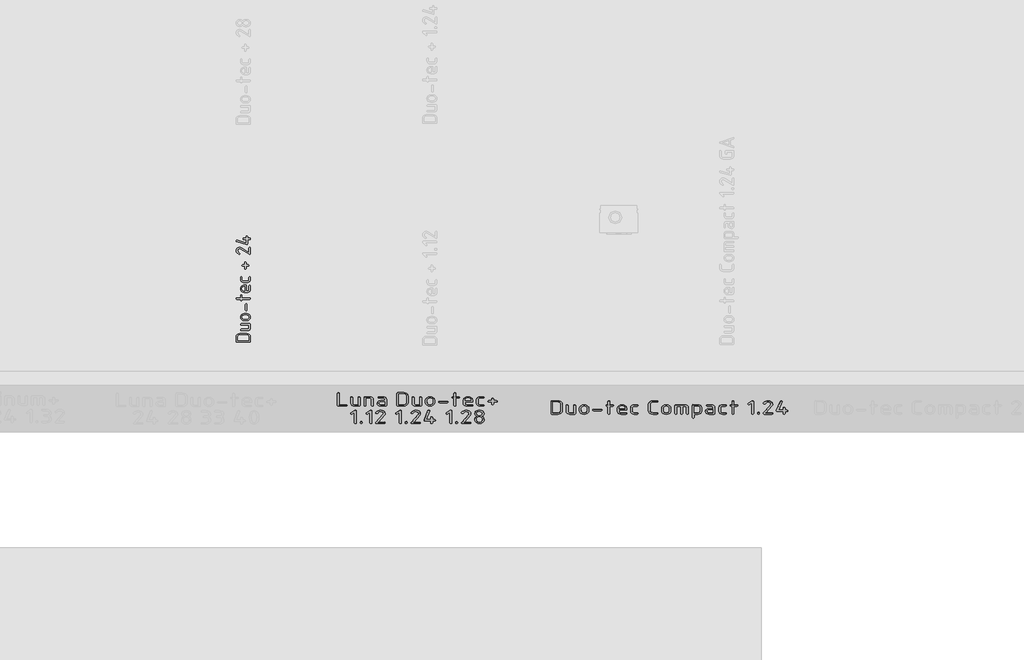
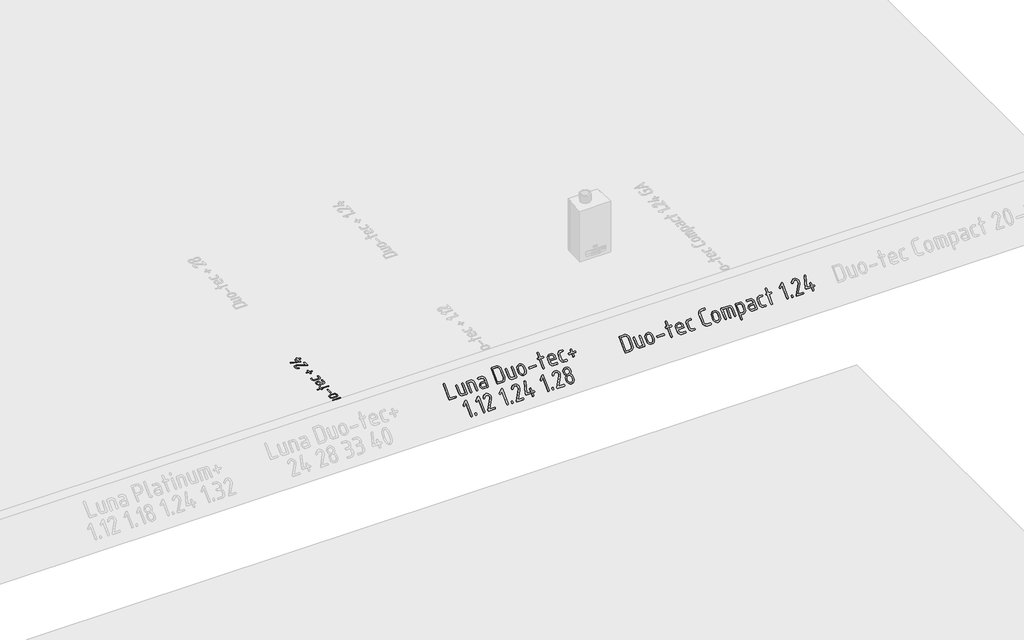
# One storey, part 24 of 37: 3 proxies.
"""IFC4 building model written with IfcOpenShell, lengths in millimetres."""

from ifc_helpers import new_model, si_unit, frame, origin, place, context, project, spatial, polyline, outline, extrude, element, save

model = new_model("IFC4")

# Units and contexts
model_context = context("Model", 3, world=origin())
ifc_project = project(units=[si_unit("LENGTHUNIT", "METRE", prefix="MILLI")], contexts=[model_context])

# Site, building, storey
site = spatial("IfcSite", under=ifc_project)
building = spatial("IfcBuilding", under=site)
storey = spatial("IfcBuildingStorey", under=building, Name="01_Стартовый вид_Площадка", Elevation=0.0)

# Proxies
placement = place(None, origin())
element("IfcBuildingElementProxy", 1, Name="200мм", ObjectType="200мм", at=placement, inside=storey, context=model_context, shape_type="SweptSolid", body=[
    extrude(outline(polyline([(181.0073918, 0.0), (188.5582446, -2.4903166), (191.0751956, -9.9612661), (191.0751956, -69.6223252), (187.4395998, -88.9189491), (176.5328124, -104.9395415), (160.3257792, -115.726474), (140.7894457, -119.3221182), (40.2179461, -119.3221182), (20.8813707, -115.6865224), (4.6343859, -104.7797351), (-6.3922563, -88.719191), (-10.0678037, -69.6223252), (-10.0678037, -9.9612661), (-7.5508528, -2.4903166), (0.0, 0.0), (181.0073918, 0.0)]), holes=[polyline([(170.6199753, -20.4552203), (10.3874166, -20.4552203), (10.3874166, -69.4625188), (12.5847547, -80.7621636), (19.176769, -90.2639863), (28.8850083, -96.7161701), (40.4310213, -98.866898), (140.5763706, -98.866898), (152.1223835, -96.7161701), (161.8306228, -90.2639863), (168.4226372, -80.7621636), (170.6199753, -69.4625188), (170.6199753, -20.4552203)])]), frame((21134.2931871, -5082.7027413, 84.7245958), z_axis=(0.0, -0.7071067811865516, 0.7071067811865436), x_axis=(0.0, 0.7071067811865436, 0.7071067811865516)), (0.0, 0.0, 1.0), 10.0),
    extrude(outline(polyline([(7.8963813, 0.0), (121.2937942, -38.8098098), (127.5601635, -43.5725011), (127.5101016, -51.4095223), (111.5032112, -98.1796553), (103.8057301, -111.7461768), (91.4765408, -120.9968587), (76.511249, -124.9537749), (60.9054607, -122.6389988), (-24.1173995, -93.5402659), (-30.3578956, -88.7019763), (-30.230214, -80.6381603), (-25.39024, -74.1871075), (-17.4938587, -74.1871075), (67.1762096, -103.1650988), (82.2515298, -102.3002329), (92.2362967, -91.3041202), (104.7416798, -54.7649538), (1.2728404, -19.3531585), (-4.9676556, -14.5148688), (-4.8399741, -6.4510528), (0.0, 0.0), (7.8963813, 0.0)])), frame((21390.8357413, -4992.7451694, 174.6821677), z_axis=(0.0, -0.7071067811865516, 0.7071067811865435), x_axis=(0.32380687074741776, -0.6690101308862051, -0.669010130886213)), (0.0, 0.0, 1.0), 10.0),
    extrude(outline(polyline([(19.5277269, 0.0), (58.788553, -7.3971647), (76.977393, -14.5033742), (90.8173496, -28.1486773), (98.6171829, -45.8732873), (98.6856532, -65.2174179), (91.5847543, -83.4140342), (77.9948347, -97.0679287), (60.19967, -104.6308689), (40.4830361, -104.5546223), (1.2222101, -97.1574576), (-16.96663, -90.0512481), (-30.8065866, -76.405945), (-38.6064199, -58.6813349), (-38.6748903, -39.3372044), (-31.5717163, -21.3442893), (-17.856617, -7.6733255), (0.0, 0.0), (19.5277269, 0.0)]), holes=[polyline([(5.5853838, -77.1644064), (44.8985576, -84.5714339), (56.5989581, -84.6144501), (67.3060997, -80.1473937), (75.5187712, -72.1612621), (79.7357612, -61.647053), (79.6340604, -50.3191559), (74.8906592, -39.8919599), (66.5432132, -31.8348129), (55.6293778, -27.6170623), (16.316204, -20.2100347), (4.5148066, -20.1276624), (-6.1812392, -24.5358276), (-14.3509512, -32.5097259), (-18.5733473, -43.1245527), (-18.4716465, -54.4524499), (-13.7282453, -64.8796458), (-5.3677123, -72.9392586), (5.5853838, -77.1644064)])]), frame((21437.9187043, -5068.0974661, 99.329871), z_axis=(0.0, -0.7071067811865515, 0.7071067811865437), x_axis=(-0.18515314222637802, 0.6948806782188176, 0.6948806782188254)), (0.0, 0.0, 1.0), 10.0),
    extrude(outline(polyline([(7.934191, 0.0), (83.6754055, -25.7842432), (89.9616023, -30.6252263), (89.8596755, -38.6935314), (85.0176196, -45.1481755), (77.0834285, -45.1481756), (1.3422141, -19.3639324), (-4.9439827, -14.5229492), (-4.8420561, -6.4546441), (0.0, 0.0), (7.934191, 0.0)])), frame((21671.1361814, -5051.8536881, 115.5736491), z_axis=(0.0, -0.7071067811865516, 0.7071067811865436), x_axis=(-0.9466499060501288, -0.22787491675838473, -0.22787491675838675)), (0.0, 0.0, 1.0), 10.0),
    extrude(outline(polyline([(109.3608521, 0.0), (109.3608521, 10.0145349), (111.9177547, 17.5254361), (119.5884622, 20.0290698), (127.2591698, 17.5254361), (129.8160723, 10.0145349), (129.8160723, 0.0), (180.954123, 0.0), (188.6248306, -2.5569026), (191.1817332, -10.2276102), (188.6248306, -17.8983178), (180.954123, -20.4552203), (129.8160723, -20.4552203), (129.8160723, -50.498825), (127.2591698, -57.9697746), (119.5884622, -60.4600912), (111.9177547, -57.9697746), (109.3608521, -50.498825), (109.3608521, -20.4552203), (0.0, -20.4552203), (-7.4709496, -17.8983178), (-9.9612662, -10.2276102), (-7.4709496, -2.5569026), (0.0, 0.0), (109.3608521, 0.0)])), frame((21734.3129815, -5082.7780748, 84.6492624), z_axis=(0.0, -0.7071067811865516, 0.7071067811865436), x_axis=(0.0, 0.7071067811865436, 0.7071067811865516)), (0.0, 0.0, 1.0), 10.0),
    extrude(outline(polyline([(80.0097418, 0.0), (80.0097418, 20.4552203), (74.0969047, 34.8644314), (67.6247451, 39.3989382), (60.0339407, 40.9104405), (10.0145349, 40.9104405), (2.5036337, 43.467343), (0.0, 51.1380507), (2.5036337, 58.8087582), (10.0145349, 61.3656608), (60.0339407, 61.3656608), (75.5751139, 58.4758283), (88.6392878, 49.8063306), (97.5085435, 36.9285975), (100.464962, 21.4140587), (100.464962, -28.4988095), (96.7561216, -47.6888956), (85.6296005, -63.8160257), (69.309371, -74.7627647), (50.0194058, -78.4116777), (30.5829514, -74.8693023), (14.46248, -64.2421762), (3.61562, -48.4479761), (0.0, -29.4043792), (0.0, 0.0), (80.0097418, 0.0)]), holes=[polyline([(50.0194058, -60.4600912), (61.5254672, -58.262753), (71.2203893, -51.6707387), (77.8124037, -41.9758166), (80.0097418, -30.4697552), (80.0097418, -20.4552203), (20.0290699, -20.4552203), (20.0290699, -30.4697552), (22.226408, -41.9758166), (28.8184223, -51.6707387), (38.5133444, -58.262753), (50.0194058, -60.4600912)])]), frame((21933.6448415, -5046.4296787, 120.9976584), z_axis=(0.0, -0.7071067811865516, 0.7071067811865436), x_axis=(-1.0, 0.0, 0.0)), (0.0, 0.0, 1.0), 10.0),
    extrude(outline(polyline([(15.1508781, 0.0), (69.9183341, 22.8458531), (80.4980469, 33.6657617), (80.467285, 48.8903841), (68.9008028, 76.6182523), (68.3843818, 84.4977287), (74.505091, 89.749238), (82.5432933, 90.4040175), (87.7793515, 84.4933041), (99.3458337, 56.7654358), (102.6619406, 41.3096074), (99.6902548, 25.9147409), (91.2197, 12.7713241), (78.0392002, 4.0698442), (22.7801153, -18.9810884), (7.3232335, -22.2254877), (-7.9764677, -18.9976633), (-21.0073015, -10.2781336), (-29.6575817, 2.9525825), (-41.2240639, 30.6804508), (-41.7404849, 38.5599271), (-35.6197758, 43.8114365), (-27.5815735, 44.4662159), (-22.3455153, 38.5555025), (-10.7790331, 10.8276342), (0.0, 0.0), (15.1508781, 0.0)])), frame((21999.2453721, -5009.535115, 157.8922221), z_axis=(0.0, -0.7071067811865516, 0.7071067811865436), x_axis=(-0.3849898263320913, -0.6526035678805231, -0.6526035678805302)), (0.0, 0.0, 1.0), 10.0),
    extrude(outline(polyline([(40.0048709, 0.0), (47.5157721, -2.5569025), (50.0194058, -10.2276102), (47.5157721, -17.8983177), (40.0048709, -20.4552203), (0.0, -20.4552203), (-11.6059404, -22.6525584), (-21.2808867, -29.2445727), (-27.8129736, -38.9528121), (-29.990336, -50.498825), (-29.990336, -150.6441742), (-27.7929978, -162.1901873), (-21.2009835, -171.8984266), (-11.5060614, -178.4904408), (0.0, -180.687779), (40.0048709, -180.687779), (47.5157721, -183.2446815), (50.0194058, -190.9153891), (47.5157721, -198.5860967), (40.0048709, -201.1429993), (0.0, -201.1429993), (-19.2899652, -197.4674519), (-35.6101947, -186.4408097), (-46.7367158, -170.1938249), (-50.4455562, -150.8572495), (-50.4455562, -50.2857498), (-46.7367158, -30.9491744), (-35.6101947, -14.7021896), (-19.2899652, -3.6755474), (0.0, 0.0), (40.0048709, 0.0)])), frame((22210.9089599, -4947.5921748, 219.8351623), z_axis=(0.0, -0.7071067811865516, 0.7071067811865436), x_axis=(1.0, 0.0, 0.0)), (0.0, 0.0, 1.0), 10.0),
    extrude(outline(polyline([(19.5277269, 0.0), (58.788553, -7.3971647), (76.977393, -14.5033742), (90.8173496, -28.1486773), (98.6171829, -45.8732873), (98.6856532, -65.2174179), (91.5847543, -83.4140342), (77.9948347, -97.0679287), (60.19967, -104.6308689), (40.4830361, -104.5546223), (1.2222101, -97.1574576), (-16.96663, -90.0512481), (-30.8065866, -76.405945), (-38.6064199, -58.6813349), (-38.6748903, -39.3372044), (-31.5717163, -21.3442893), (-17.856617, -7.6733255), (0.0, 0.0), (19.5277269, 0.0)]), holes=[polyline([(5.5853838, -77.1644064), (44.8985576, -84.5714339), (56.5989581, -84.6144501), (67.3060997, -80.1473937), (75.5187712, -72.1612621), (79.7357612, -61.647053), (79.6340604, -50.3191559), (74.8906592, -39.8919599), (66.5432132, -31.8348129), (55.6293778, -27.6170623), (16.316204, -20.2100347), (4.5148066, -20.1276624), (-6.1812392, -24.5358276), (-14.3509512, -32.5097259), (-18.5733473, -43.1245527), (-18.4716465, -54.4524499), (-13.7282453, -64.8796458), (-5.3677123, -72.9392586), (5.5853838, -77.1644064)])]), frame((22303.8563621, -5068.0974661, 99.329871), z_axis=(0.0, -0.7071067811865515, 0.7071067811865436), x_axis=(-0.1851531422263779, 0.6948806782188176, 0.6948806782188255)), (0.0, 0.0, 1.0), 10.0),
    extrude(outline(polyline([(8.0648268, 0.0), (95.6150095, -28.42341), (109.8146858, -36.0716859), (119.6837275, -48.3906321), (124.1620709, -63.3839268), (122.1896525, -79.0552479), (94.4406405, -164.5281404), (89.7017561, -170.8444537), (81.6369293, -170.8444538), (75.110059, -166.1072187), (74.9850443, -158.2118271), (102.6189151, -73.0935939), (103.610512, -65.2736839), (101.3875032, -57.8242882), (96.4501456, -51.7058984), (89.2986962, -47.8790062), (69.8431001, -41.5626929), (36.073852, -145.5792004), (31.3349677, -151.8955137), (23.2701408, -151.8955138), (16.7432705, -147.1582787), (16.6182558, -139.2628871), (50.3875039, -35.2463795), (11.4763116, -22.6137528), (-22.2929365, -126.6302604), (-27.0318208, -132.9465737), (-35.0966477, -132.9465738), (-41.6235179, -128.2093387), (-41.7485327, -120.3139471), (-4.7388842, -6.3163133), (0.0, 0.0), (8.0648268, 0.0)])), frame((22442.5749831, -4992.7451694, 174.6821677), z_axis=(0.0, -0.7071067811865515, 0.7071067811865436), x_axis=(0.951131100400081, 0.21834563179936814, 0.21834563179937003)), (0.0, 0.0, 1.0), 10.0),
    extrude(outline(polyline([(181.0073918, 0.0), (188.5582446, -2.4769993), (191.0751955, -9.9079973), (191.0751955, -59.3414463), (188.1853629, -74.6695443), (179.5158653, -87.4141053), (166.6381322, -96.0036998), (151.1235935, -98.8668979), (91.2494592, -98.8668979), (75.8347993, -96.0236756), (62.9370905, -87.4940085), (54.2076654, -74.8493265), (51.297857, -59.6610591), (51.297857, -20.4552202), (0.1598064, -20.4552202), (-7.5109012, -17.8983177), (-10.0678037, -10.2276101), (-7.5508528, -2.5569025), (0.0, 0.0), (181.0073918, 0.0)]), holes=[polyline([(170.6199752, -20.4552202), (71.7530773, -20.4552202), (71.7530773, -59.0751022), (77.5327424, -72.7651846), (91.5158032, -78.4116777), (150.8572494, -78.4116777), (164.9202134, -72.8450878), (170.6199752, -59.0751022), (170.6199752, -20.4552202)])]), frame((22624.115063, -5126.0948162, 41.332521), z_axis=(0.0, -0.7071067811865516, 0.7071067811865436), x_axis=(0.0, 0.7071067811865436, 0.7071067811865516)), (0.0, 0.0, 1.0), 10.0),
    extrude(outline(polyline([(50.2324811, 0.0), (65.7203855, -2.9630772), (78.6247529, -11.8523086), (87.3342022, -25.0429959), (90.2373519, -40.9104406), (84.9104717, -61.5254672), (70.5678465, -76.7470277), (50.2324811, -81.8208811), (10.2276102, -81.8208811), (10.2276102, -100.5714997), (15.9806409, -113.9153348), (30.2034112, -119.3221182), (70.2082821, -119.3221182), (77.7191833, -121.8790208), (80.222817, -129.5497284), (77.7191833, -137.220436), (70.2082821, -139.7773385), (30.2034112, -139.7773385), (14.628945, -136.8875059), (1.5714297, -128.2180083), (-7.2778501, -115.3402752), (-10.2276101, -99.8257365), (-10.2276101, -9.9612662), (-7.6707076, -2.4903166), (0.0, 0.0), (50.2324811, 0.0)]), holes=[polyline([(10.2276102, -61.3656608), (50.2324811, -61.3656608), (57.9231645, -59.8741343), (64.3753482, -55.3995549), (68.7500486, -48.7942234), (70.2082821, -40.9104406), (64.295445, -26.5012294), (57.8232855, -21.9667226), (50.2324811, -20.4552203), (10.2276102, -20.4552203), (10.2276102, -61.3656608)])]), frame((22852.5316893, -5089.8217536, 77.6055835), z_axis=(0.0, -0.7071067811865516, 0.7071067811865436), x_axis=(-1.0, 0.0, 0.0)), (0.0, 0.0, 1.0), 10.0),
    extrude(outline(polyline([(15.1508781, 0.0), (69.9183341, 22.8458531), (80.4980469, 33.6657617), (80.467285, 48.8903841), (68.9008028, 76.6182523), (68.3843818, 84.4977287), (74.505091, 89.749238), (82.5432933, 90.4040175), (87.7793515, 84.4933041), (99.3458337, 56.7654358), (102.6619406, 41.3096074), (99.6902548, 25.9147409), (91.2197, 12.7713241), (78.0392002, 4.0698442), (22.7801153, -18.9810884), (7.3232335, -22.2254877), (-7.9764677, -18.9976633), (-21.0073015, -10.2781336), (-29.6575817, 2.9525825), (-41.2240639, 30.6804508), (-41.7404849, 38.5599271), (-35.6197758, 43.8114365), (-27.5815735, 44.4662159), (-22.3455153, 38.5555025), (-10.7790331, 10.8276342), (0.0, 0.0), (15.1508781, 0.0)])), frame((22929.9578941, -5009.535115, 157.8922221), z_axis=(0.0, -0.7071067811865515, 0.7071067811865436), x_axis=(-0.384989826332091, -0.6526035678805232, -0.6526035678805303)), (0.0, 0.0, 1.0), 10.0),
    extrude(outline(polyline([(109.3608521, 0.0), (109.3608521, 10.0145349), (111.9177547, 17.5254361), (119.5884622, 20.0290699), (127.2591698, 17.5254361), (129.8160723, 10.0145349), (129.8160723, 0.0), (180.954123, 0.0), (188.6248306, -2.5569025), (191.1817332, -10.2276101), (188.6248306, -17.8983177), (180.954123, -20.4552202), (129.8160723, -20.4552202), (129.8160723, -50.498825), (127.2591698, -57.9697746), (119.5884622, -60.4600911), (111.9177547, -57.9697746), (109.3608521, -50.498825), (109.3608521, -20.4552202), (0.0, -20.4552202), (-7.4709496, -17.8983177), (-9.9612662, -10.2276101), (-7.4709496, -2.5569025), (0.0, 0.0), (109.3608521, 0.0)])), frame((23043.4470784, -5082.7780748, 84.6492624), z_axis=(0.0, -0.7071067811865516, 0.7071067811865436), x_axis=(0.0, 0.7071067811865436, 0.7071067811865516)), (0.0, 0.0, 1.0), 10.0),
    extrude(outline(polyline([(156.7700866, 0.0), (133.704695, 23.0121228), (130.8281796, 29.990336), (133.3318134, 37.5012372), (140.8427146, 40.0048709), (147.8209277, 37.0750867), (187.1333041, -2.0242145), (191.0751956, -10.2276101), (188.5582446, -17.8983177), (181.0073918, -20.4552203), (0.0, -20.4552203), (-7.5508528, -17.8983177), (-10.0678037, -10.2276101), (-7.5508528, -2.5569025), (0.0, 0.0), (156.7700866, 0.0)])), frame((23251.4084844, -5082.7027413, 84.7245958), z_axis=(0.0, -0.7071067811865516, 0.7071067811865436), x_axis=(0.0, 0.7071067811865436, 0.7071067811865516)), (0.0, 0.0, 1.0), 10.0),
    extrude(outline(polyline([(10.2276102, 0.0), (17.8983177, -2.5569025), (20.4552203, -10.2276101), (17.8983177, -17.8983177), (10.2276102, -20.4552202), (0.0, -20.4552202), (-7.6707076, -17.8983177), (-10.2276102, -10.2276101), (-7.6707076, -2.5569025), (0.0, 0.0), (10.2276102, 0.0)])), frame((23312.7741452, -5082.5897411, 84.837596), z_axis=(0.0, -0.7071067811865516, 0.7071067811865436), x_axis=(0.0, 0.7071067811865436, 0.7071067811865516)), (0.0, 0.0, 1.0), 10.0),
    extrude(outline(polyline([(14.6692354, 0.0), (33.1062033, -6.6022305), (47.3681923, -19.9776427), (55.6930957, -37.6934158), (56.3188067, -57.3167297), (51.840737, -71.1866425), (42.8424616, -84.4831552), (-35.138713, -175.0883818), (26.2241518, -184.7023202), (33.2487615, -188.3909846), (34.5349086, -196.3567717), (30.8741352, -203.5475071), (23.0579834, -204.9110167), (-55.9874908, -192.526681), (-63.0203458, -188.8906432), (-64.3312286, -181.0827366), (-61.7484405, -175.6102613), (28.9539758, -70.2294251), (36.4734082, -54.5849108), (36.0907364, -42.8313548), (31.0839533, -32.2000358), (22.5293124, -24.1671006), (11.503067, -20.2086964), (-5.5868318, -23.8935588), (-23.3858749, -40.192112), (-32.6617346, -43.6454248), (-39.6945896, -40.0093871), (-41.0054724, -32.2014805), (-39.423307, -28.29763), (-27.0462713, -14.148815), (-13.9051689, -4.7162716), (0.0, 0.0), (14.6692354, 0.0)])), frame((23409.1873489, -4949.1977193, 218.2296179), z_axis=(0.0, -0.7071067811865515, 0.7071067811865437), x_axis=(0.9879481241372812, 0.10944976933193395, 0.10944976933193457)), (0.0, 0.0, 1.0), 10.0),
    extrude(outline(polyline([(7.917185, 1e-07), (10.3934109, -1.1623101), (130.7514683, -83.450499), (134.8406101, -88.4913876), (134.6089903, -94.9556849), (129.8713131, -101.2936442), (121.9920295, -101.306278), (119.4147331, -99.9418269), (10.4776363, -25.334992), (-4.3291842, -69.7554535), (24.1726819, -79.2560755), (30.4516834, -84.0442879), (30.3885144, -92.1088673), (25.600302, -98.5984323), (17.7041733, -98.6616013), (-10.7976928, -89.1609792), (-17.1314408, -108.1622233), (-21.9196532, -114.4412249), (-29.9842327, -114.3780558), (-36.4737975, -109.5898434), (-36.5369666, -101.6937147), (-30.2032186, -82.6924706), (-59.3115073, -72.9897077), (-65.7800159, -68.1383263), (-65.780016, -60.0526905), (-60.9286345, -53.5841819), (-52.8429987, -53.584182), (-23.73471, -63.2869449), (-4.750311, -6.333748), (0.0, 0.0), (7.917185, 1e-07)])), frame((23514.5563701, -5059.1233673, 108.3039699), z_axis=(0.0, -0.7071067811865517, 0.7071067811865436), x_axis=(-0.3162277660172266, 0.6708203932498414, 0.6708203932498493)), (0.0, 0.0, 1.0), 10.0),
])
element("IfcBuildingElementProxy", 2, Name="200мм", ObjectType="200мм", at=placement, inside=storey, context=model_context, shape_type="SweptSolid", body=[
    extrude(outline(polyline([(181.0073918, 0.0), (188.5582446, -2.5569025), (191.0751956, -10.2276101), (188.5715618, -17.8983177), (181.0606606, -20.4552203), (10.3874166, -20.4552203), (10.3874166, -90.4504271), (7.830514, -97.9613283), (0.1598064, -100.464962), (-7.5109012, -97.9613283), (-10.0678037, -90.4504271), (-10.0678037, -10.2276101), (-7.5508528, -2.5569025), (0.0, 0.0), (181.0073918, 0.0)])), frame((18881.6929907, -4997.8499276, 169.5774096), z_axis=(0.0, -0.7071067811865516, 0.7071067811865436), x_axis=(0.0, 0.7071067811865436, 0.7071067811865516)), (0.0, 0.0, 1.0), 10.0),
    extrude(outline(polyline([(7.8963813, 0.0), (121.2937942, -38.8098098), (127.5601635, -43.5725011), (127.5101015, -51.4095223), (111.5032111, -98.1796553), (103.8057301, -111.7461768), (91.4765408, -120.9968587), (76.5112491, -124.9537749), (60.9054607, -122.6389988), (-24.1173995, -93.5402659), (-30.3578956, -88.7019763), (-30.230214, -80.6381603), (-25.39024, -74.1871075), (-17.4938587, -74.1871075), (67.1762096, -103.1650988), (82.2515298, -102.3002329), (92.2362967, -91.3041202), (104.7416798, -54.7649537), (1.2728405, -19.3531584), (-4.9676556, -14.5148688), (-4.8399741, -6.4510528), (0.0, 0.0), (7.8963813, 0.0)])), frame((19117.7803246, -4907.8923557, 259.5349815), z_axis=(0.0, -0.7071067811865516, 0.7071067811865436), x_axis=(0.32380687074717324, -0.6690101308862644, -0.6690101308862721)), (0.0, 0.0, 1.0), 10.0),
    extrude(outline(polyline([(7.8963813, 1e-07), (121.2937942, -38.8098097), (127.5601635, -43.5725011), (127.5101015, -51.4095223), (111.5032111, -98.1796552), (103.8057301, -111.7461767), (91.4765408, -120.9968587), (76.511249, -124.9537748), (60.9054607, -122.6389988), (-24.1173995, -93.5402659), (-30.3578956, -88.7019762), (-30.230214, -80.6381602), (-25.39024, -74.1871074), (-17.4938586, -74.1871074), (67.1762096, -103.1650987), (82.3596044, -102.4779764), (92.2362967, -91.3041201), (104.7416798, -54.7649537), (1.2728405, -19.3531584), (-4.9676556, -14.5148688), (-4.8399741, -6.4510528), (0.0, 0.0), (7.8963813, 1e-07)])), frame((19163.8045702, -5003.2080201, 164.219317), z_axis=(0.0, -0.7071067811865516, 0.7071067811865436), x_axis=(-0.32380687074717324, 0.6690101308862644, 0.6690101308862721)), (0.0, 0.0, 1.0), 10.0),
    extrude(outline(polyline([(50.232481, 0.0), (65.7203854, -2.9630771), (78.6247529, -11.8523086), (87.3342021, -25.0429959), (90.2373519, -40.9104405), (84.9104716, -61.5254672), (70.5678465, -76.7470275), (50.232481, -81.820881), (10.2276101, -81.820881), (10.2276101, -100.5714996), (15.9806408, -113.9153347), (30.2034112, -119.3221182), (70.208282, -119.3221182), (77.7191832, -121.8790207), (80.222817, -129.5497283), (77.7191832, -137.2204359), (70.208282, -139.7773384), (30.2034112, -139.7773384), (14.6289449, -136.8875059), (1.5714297, -128.2180082), (-7.2778502, -115.3402751), (-10.2276101, -99.8257363), (-10.2276101, -9.9612661), (-7.6707076, -2.4903165), (0.0, 0.0), (50.232481, 0.0)]), holes=[polyline([(10.2276101, -61.3656608), (50.232481, -61.3656608), (57.9231644, -59.8741343), (64.3753481, -55.3995548), (68.7500486, -48.7942233), (70.208282, -40.9104405), (64.2954449, -26.5012294), (57.8232854, -21.9667225), (50.232481, -20.4552203), (10.2276101, -20.4552203), (10.2276101, -61.3656608)])]), frame((19389.6642939, -5004.9689398, 162.4583973), z_axis=(0.0, -0.7071067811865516, 0.7071067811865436), x_axis=(-1.0, 0.0, 0.0)), (0.0, 0.0, 1.0), 10.0),
    extrude(outline(polyline([(181.0073918, 0.0), (188.5582446, -2.4903165), (191.0751956, -9.9612661), (191.0751956, -69.6223252), (187.4395998, -88.918949), (176.5328124, -104.9395415), (160.3257792, -115.726474), (140.7894457, -119.3221182), (40.2179461, -119.3221182), (20.8813707, -115.6865224), (4.6343858, -104.7797351), (-6.3922563, -88.719191), (-10.0678037, -69.6223252), (-10.0678037, -9.9612661), (-7.5508528, -2.4903165), (0.0, 0.0), (181.0073918, 0.0)]), holes=[polyline([(170.6199753, -20.4552203), (10.3874166, -20.4552203), (10.3874166, -69.4625188), (12.5847546, -80.7621636), (19.176769, -90.2639863), (28.8850083, -96.71617), (40.4310213, -98.866898), (140.5763705, -98.866898), (152.1223835, -96.71617), (161.8306228, -90.2639863), (168.4226372, -80.7621636), (170.6199753, -69.4625188), (170.6199753, -20.4552203)])]), frame((19508.9864121, -4997.8499276, 169.5774096), z_axis=(0.0, -0.7071067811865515, 0.7071067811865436), x_axis=(0.0, 0.7071067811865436, 0.7071067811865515)), (0.0, 0.0, 1.0), 10.0),
    extrude(outline(polyline([(7.8963813, 0.0), (121.2937942, -38.8098098), (127.5601635, -43.5725011), (127.5101015, -51.4095223), (111.5032111, -98.1796553), (103.8057301, -111.7461768), (91.4765407, -120.9968588), (76.5112491, -124.9537749), (60.9054607, -122.6389989), (-24.1173996, -93.540266), (-30.3578956, -88.7019763), (-30.230214, -80.6381603), (-25.39024, -74.1871075), (-17.4938587, -74.1871075), (67.1762096, -103.1650988), (82.2515298, -102.3002329), (92.2362967, -91.3041202), (104.7416798, -54.7649538), (1.2728404, -19.3531585), (-4.9676556, -14.5148688), (-4.8399741, -6.4510528), (0.0, 0.0), (7.8963813, 0.0)])), frame((19765.5289663, -4907.8923557, 259.5349815), z_axis=(0.0, -0.7071067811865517, 0.7071067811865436), x_axis=(0.3238068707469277, -0.6690101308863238, -0.6690101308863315)), (0.0, 0.0, 1.0), 10.0),
    extrude(outline(polyline([(19.5277269, 0.0), (58.788553, -7.3971647), (76.977393, -14.5033742), (90.8173496, -28.1486773), (98.6171829, -45.8732873), (98.6856532, -65.2174179), (91.5847543, -83.4140342), (77.9948347, -97.0679287), (60.1996699, -104.6308689), (40.4830361, -104.5546223), (1.2222101, -97.1574576), (-16.96663, -90.0512481), (-30.8065866, -76.405945), (-38.6064199, -58.6813349), (-38.6748902, -39.3372044), (-31.5717163, -21.3442893), (-17.856617, -7.6733255), (0.0, 0.0), (19.5277269, 0.0)]), holes=[polyline([(5.5853838, -77.1644064), (44.8985577, -84.5714339), (56.5989581, -84.6144501), (67.3060997, -80.1473936), (75.5187711, -72.1612621), (79.7357612, -61.647053), (79.6340604, -50.3191558), (74.8906592, -39.89196), (66.5432132, -31.8348129), (55.6293779, -27.6170623), (16.316204, -20.2100347), (4.5148066, -20.1276624), (-6.1812393, -24.5358276), (-14.3509513, -32.5097259), (-18.5733473, -43.1245527), (-18.4716465, -54.4524499), (-13.7282453, -64.8796457), (-5.3677123, -72.9392586), (5.5853838, -77.1644064)])]), frame((19812.6119293, -4983.2446524, 184.1826848), z_axis=(0.0, -0.7071067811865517, 0.7071067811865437), x_axis=(-0.18515314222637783, 0.6948806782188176, 0.6948806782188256)), (0.0, 0.0, 1.0), 10.0),
    extrude(outline(polyline([(7.934191, 0.0), (83.6754055, -25.7842433), (89.9616023, -30.6252263), (89.8596755, -38.6935314), (85.0176196, -45.1481755), (77.0834286, -45.1481755), (1.3422141, -19.3639323), (-4.9439827, -14.5229492), (-4.8420561, -6.4546441), (0.0, 0.0), (7.934191, 0.0)])), frame((20045.8294064, -4967.0008743, 200.4264628), z_axis=(0.0, -0.7071067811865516, 0.7071067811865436), x_axis=(-0.9466499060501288, -0.22787491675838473, -0.22787491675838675)), (0.0, 0.0, 1.0), 10.0),
    extrude(outline(polyline([(109.3608521, 0.0), (109.3608521, 10.0145349), (111.9177546, 17.5254361), (119.5884622, 20.0290698), (127.2591698, 17.5254361), (129.8160723, 10.0145349), (129.8160723, 0.0), (180.954123, 0.0), (188.6248306, -2.5569025), (191.1817332, -10.2276101), (188.6248306, -17.8983177), (180.954123, -20.4552203), (129.8160723, -20.4552203), (129.8160723, -50.498825), (127.2591698, -57.9697746), (119.5884622, -60.4600912), (111.9177546, -57.9697746), (109.3608521, -50.498825), (109.3608521, -20.4552203), (0.0, -20.4552203), (-7.4709496, -17.8983177), (-9.9612661, -10.2276101), (-7.4709496, -2.5569025), (0.0, 0.0), (109.3608521, 0.0)])), frame((20109.0062065, -4997.925261, 169.5020761), z_axis=(0.0, -0.7071067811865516, 0.7071067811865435), x_axis=(0.0, 0.7071067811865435, 0.7071067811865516)), (0.0, 0.0, 1.0), 10.0),
    extrude(outline(polyline([(80.0097418, 0.0), (80.0097418, 20.4552203), (74.0969047, 34.8644314), (67.6247451, 39.3989382), (60.0339407, 40.9104405), (10.0145349, 40.9104405), (2.5036338, 43.4673431), (0.0, 51.1380507), (2.5036338, 58.8087582), (10.0145349, 61.3656608), (60.0339407, 61.3656608), (75.575114, 58.4758283), (88.6392878, 49.8063306), (97.5085435, 36.9285976), (100.4649621, 21.4140587), (100.4649621, -28.4988095), (96.7561217, -47.6888957), (85.6296005, -63.8160257), (69.309371, -74.7627647), (50.0194058, -78.4116777), (30.5829514, -74.8693023), (14.46248, -64.2421762), (3.61562, -48.4479761), (0.0, -29.4043791), (0.0, 0.0), (80.0097418, 0.0)]), holes=[polyline([(50.0194058, -60.4600912), (61.5254672, -58.262753), (71.2203893, -51.6707387), (77.8124037, -41.9758166), (80.0097418, -30.4697552), (80.0097418, -20.4552203), (20.0290699, -20.4552203), (20.0290699, -30.4697552), (22.226408, -41.9758166), (28.8184223, -51.6707387), (38.5133444, -58.262753), (50.0194058, -60.4600912)])]), frame((20308.3380665, -4961.576865, 205.8504722), z_axis=(0.0, -0.7071067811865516, 0.7071067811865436), x_axis=(-1.0, 0.0, 0.0)), (0.0, 0.0, 1.0), 10.0),
    extrude(outline(polyline([(15.150878, 0.0), (69.918334, 22.8458531), (80.4980469, 33.6657617), (80.467285, 48.890384), (68.9008028, 76.6182523), (68.3843818, 84.4977287), (74.505091, 89.749238), (82.5432932, 90.4040175), (87.7793513, 84.493304), (99.3458335, 56.7654357), (102.6619405, 41.3096074), (99.6902547, 25.9147409), (91.2197, 12.7713241), (78.0392002, 4.0698442), (22.7801153, -18.9810884), (7.3232334, -22.2254877), (-7.9764677, -18.9976633), (-21.0073016, -10.2781336), (-29.6575818, 2.9525825), (-41.224064, 30.6804508), (-41.740485, 38.5599271), (-35.6197758, 43.8114364), (-27.5815735, 44.4662159), (-22.3455154, 38.5555025), (-10.7790332, 10.8276342), (0.0, 0.0), (15.150878, 0.0)])), frame((20373.9385971, -4924.6823013, 242.7450358), z_axis=(0.0, -0.7071067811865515, 0.7071067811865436), x_axis=(-0.38498982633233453, -0.6526035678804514, -0.6526035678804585)), (0.0, 0.0, 1.0), 10.0),
    extrude(outline(polyline([(30.6828304, 0.0), (30.6828304, 29.9903359), (33.239733, 37.5012371), (40.9104405, 40.0048708), (48.5811482, 37.5012371), (51.1380507, 29.9903359), (51.1380507, 0.0), (79.2639785, 0.0), (86.2954605, -2.5569026), (88.6392878, -10.2276102), (86.2954605, -17.8983178), (79.2639785, -20.4552203), (51.1380507, -20.4552203), (51.1380507, -50.4455563), (48.5811482, -57.9564575), (40.9104405, -60.4600912), (33.239733, -57.9564575), (30.6828304, -50.4455563), (30.6828304, -20.4552203), (0.0, -20.4552203), (-7.6707076, -17.8983178), (-10.2276101, -10.2276102), (-7.6707076, -2.5569026), (0.0, 0.0), (30.6828304, 0.0)])), frame((20507.8830016, -4983.2729024, 184.1544347), z_axis=(0.0, -0.7071067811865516, 0.7071067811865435), x_axis=(0.0, 0.7071067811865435, 0.7071067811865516)), (0.0, 0.0, 1.0), 10.0),
    extrude(outline(polyline([(156.7700865, 0.0), (133.7046949, 23.0121228), (130.8281796, 29.9903359), (133.3318133, 37.5012371), (140.8427145, 40.0048709), (147.8209277, 37.0750867), (187.1333041, -2.0242145), (191.0751955, -10.2276101), (188.5582446, -17.8983177), (181.0073918, -20.4552203), (0.0, -20.4552203), (-7.5508528, -17.8983177), (-10.0678037, -10.2276101), (-7.5508528, -2.5569025), (0.0, 0.0), (156.7700865, 0.0)])), frame((19060.676168, -5182.6633587, -15.2360215), z_axis=(0.0, -0.7071067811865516, 0.7071067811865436), x_axis=(0.0, 0.7071067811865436, 0.7071067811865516)), (0.0, 0.0, 1.0), 10.0),
    extrude(outline(polyline([(10.2276101, 0.0), (17.8983177, -2.5569025), (20.4552203, -10.2276101), (17.8983177, -17.8983177), (10.2276101, -20.4552203), (0.0, -20.4552203), (-7.6707076, -17.8983177), (-10.2276102, -10.2276101), (-7.6707076, -2.5569025), (0.0, 0.0), (10.2276101, 0.0)])), frame((19122.0418288, -5182.5503585, -15.1230213), z_axis=(0.0, -0.7071067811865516, 0.7071067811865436), x_axis=(0.0, 0.7071067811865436, 0.7071067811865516)), (0.0, 0.0, 1.0), 10.0),
    extrude(outline(polyline([(156.7700865, 0.0), (133.7046949, 23.0121228), (130.8281796, 29.9903359), (133.3318133, 37.5012371), (140.8427145, 40.0048709), (147.8209277, 37.0750867), (187.1333041, -2.0242145), (191.0751955, -10.2276102), (188.5582446, -17.8983177), (181.0073918, -20.4552203), (0.0, -20.4552203), (-7.5508528, -17.8983177), (-10.0678037, -10.2276102), (-7.5508528, -2.5569026), (0.0, 0.0), (156.7700865, 0.0)])), frame((19224.3179301, -5182.6633587, -15.2360215), z_axis=(0.0, -0.7071067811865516, 0.7071067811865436), x_axis=(0.0, 0.7071067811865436, 0.7071067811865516)), (0.0, 0.0, 1.0), 10.0),
    extrude(outline(polyline([(14.6692355, -1e-07), (33.1062034, -6.6022305), (47.3681923, -19.9776427), (55.6930957, -37.6934159), (56.3188068, -57.3167297), (51.8407371, -71.1866426), (42.8424616, -84.4831553), (-35.1387131, -175.0883818), (26.2241519, -184.7023202), (33.2487616, -188.3909847), (34.5349087, -196.3567717), (30.8741353, -203.5475071), (23.0579835, -204.9110167), (-55.9874908, -192.526681), (-63.0203458, -188.8906432), (-64.3312285, -181.0827367), (-61.7484404, -175.6102614), (28.9539759, -70.2294251), (36.4734082, -54.5849108), (36.0907364, -42.8313549), (31.0839534, -32.2000358), (22.5293125, -24.1671006), (11.5030671, -20.2086965), (-5.5868318, -23.8935588), (-23.3858748, -40.1921121), (-32.6617346, -43.6454248), (-39.6945896, -40.0093871), (-41.0054723, -32.2014805), (-39.423307, -28.2976301), (-27.0462712, -14.148815), (-13.9051688, -4.7162717), (0.0, 0.0), (14.6692355, -1e-07)])), frame((19320.7311338, -5049.1583366, 118.2690005), z_axis=(0.0, -0.7071067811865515, 0.7071067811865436), x_axis=(0.9879481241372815, 0.10944976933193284, 0.10944976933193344)), (0.0, 0.0, 1.0), 10.0),
    extrude(outline(polyline([(156.7700865, 0.0), (133.7046949, 23.0121227), (130.8281796, 29.9903359), (133.3318133, 37.5012371), (140.8427145, 40.0048708), (147.8209277, 37.0750867), (187.1333041, -2.0242146), (191.0751955, -10.2276102), (188.5582446, -17.8983178), (181.0073918, -20.4552203), (0.0, -20.4552203), (-7.5508528, -17.8983178), (-10.0678037, -10.2276102), (-7.5508528, -2.5569026), (0.0, 0.0), (156.7700865, 0.0)])), frame((19534.5554374, -5182.6633587, -15.2360215), z_axis=(0.0, -0.7071067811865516, 0.7071067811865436), x_axis=(0.0, 0.7071067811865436, 0.7071067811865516)), (0.0, 0.0, 1.0), 10.0),
    extrude(outline(polyline([(10.2276101, 0.0), (17.8983177, -2.5569026), (20.4552203, -10.2276102), (17.8983177, -17.8983178), (10.2276101, -20.4552203), (0.0, -20.4552203), (-7.6707076, -17.8983178), (-10.2276102, -10.2276102), (-7.6707076, -2.5569026), (0.0, 0.0), (10.2276101, 0.0)])), frame((19595.9210982, -5182.5503585, -15.1230213), z_axis=(0.0, -0.7071067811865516, 0.7071067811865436), x_axis=(0.0, 0.7071067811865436, 0.7071067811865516)), (0.0, 0.0, 1.0), 10.0),
    extrude(outline(polyline([(14.6692355, -1e-07), (33.1062034, -6.6022305), (47.3681923, -19.9776427), (55.6930957, -37.6934159), (56.3188068, -57.3167297), (51.8407371, -71.1866426), (42.8424616, -84.4831553), (-35.138713, -175.0883818), (26.2241519, -184.7023202), (33.2487616, -188.3909847), (34.5349087, -196.3567717), (30.8741353, -203.5475071), (23.0579835, -204.9110167), (-55.9874908, -192.526681), (-63.0203458, -188.8906432), (-64.3312285, -181.0827367), (-61.7484404, -175.6102614), (28.9539759, -70.2294251), (36.4734083, -54.5849109), (36.0907364, -42.8313549), (31.0839534, -32.2000358), (22.5293125, -24.1671006), (11.5030671, -20.2086965), (-5.5868317, -23.8935588), (-23.3858748, -40.1921121), (-32.6617346, -43.6454248), (-39.6945896, -40.0093871), (-41.0054723, -32.2014805), (-39.4233069, -28.2976301), (-27.0462712, -14.148815), (-13.9051688, -4.7162717), (0.0, 0.0), (14.6692355, -1e-07)])), frame((19692.3343019, -5049.1583366, 118.2690005), z_axis=(0.0, -0.7071067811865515, 0.7071067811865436), x_axis=(0.9879481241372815, 0.10944976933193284, 0.10944976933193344)), (0.0, 0.0, 1.0), 10.0),
    extrude(outline(polyline([(7.917185, 0.0), (10.393411, -1.1623102), (130.7514683, -83.4504991), (134.8406101, -88.4913877), (134.6089903, -94.955685), (129.8713131, -101.2936443), (121.9920295, -101.306278), (119.4147331, -99.941827), (10.4776364, -25.3349921), (-4.3291841, -69.7554535), (24.1726819, -79.2560755), (30.4516834, -84.044288), (30.3885144, -92.1088674), (25.600302, -98.5984324), (17.7041733, -98.6616014), (-10.7976927, -89.1609794), (-17.1314407, -108.1622234), (-21.9196532, -114.4412249), (-29.9842326, -114.3780559), (-36.4737975, -109.5898434), (-36.5369665, -101.6937147), (-30.2032185, -82.6924708), (-59.3115073, -72.9897078), (-65.7800159, -68.1383264), (-65.7800159, -60.0526906), (-60.9286344, -53.584182), (-52.8429987, -53.584182), (-23.7347099, -63.2869449), (-4.750311, -6.333748), (0.0, 0.0), (7.917185, 0.0)])), frame((19797.7033231, -5159.0839847, 8.3433525), z_axis=(0.0, -0.7071067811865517, 0.7071067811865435), x_axis=(-0.31622776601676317, 0.6708203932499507, 0.6708203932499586)), (0.0, 0.0, 1.0), 10.0),
    extrude(outline(polyline([(156.7700865, 0.0), (133.7046949, 23.0121228), (130.8281796, 29.990336), (133.3318133, 37.5012372), (140.8427145, 40.0048709), (147.8209277, 37.0750867), (187.1333041, -2.0242145), (191.0751955, -10.2276101), (188.5582446, -17.8983177), (181.0073918, -20.4552203), (0.0, -20.4552203), (-7.5508528, -17.8983177), (-10.0678037, -10.2276101), (-7.5508528, -2.5569025), (0.0, 0.0), (156.7700865, 0.0)])), frame((20066.3911643, -5182.6633587, -15.2360215), z_axis=(0.0, -0.7071067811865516, 0.7071067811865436), x_axis=(0.0, 0.7071067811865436, 0.7071067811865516)), (0.0, 0.0, 1.0), 10.0),
    extrude(outline(polyline([(10.2276101, 0.0), (17.8983177, -2.5569025), (20.4552203, -10.2276101), (17.8983177, -17.8983177), (10.2276101, -20.4552202), (0.0, -20.4552202), (-7.6707076, -17.8983177), (-10.2276102, -10.2276101), (-7.6707076, -2.5569025), (0.0, 0.0), (10.2276101, 0.0)])), frame((20127.7568251, -5182.5503585, -15.1230213), z_axis=(0.0, -0.7071067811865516, 0.7071067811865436), x_axis=(0.0, 0.7071067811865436, 0.7071067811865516)), (0.0, 0.0, 1.0), 10.0),
    extrude(outline(polyline([(14.6692354, 0.0), (33.1062033, -6.6022305), (47.3681923, -19.9776427), (55.6930957, -37.6934159), (56.3188068, -57.3167297), (51.840737, -71.1866426), (42.8424616, -84.4831553), (-35.1387131, -175.0883818), (26.2241518, -184.7023202), (33.2487615, -188.3909847), (34.5349087, -196.3567717), (30.8741352, -203.5475071), (23.0579834, -204.9110167), (-55.9874908, -192.526681), (-63.0203458, -188.8906432), (-64.3312286, -181.0827367), (-61.7484405, -175.6102614), (28.9539758, -70.2294251), (36.4734082, -54.5849108), (36.0907364, -42.8313549), (31.0839534, -32.2000358), (22.5293124, -24.1671006), (11.503067, -20.2086965), (-5.5868318, -23.8935588), (-23.3858749, -40.1921121), (-32.6617346, -43.6454248), (-39.6945896, -40.0093871), (-41.0054724, -32.2014805), (-39.423307, -28.2976301), (-27.0462713, -14.148815), (-13.9051689, -4.7162716), (0.0, 0.0), (14.6692354, 0.0)])), frame((20224.1700288, -5049.1583366, 118.2690005), z_axis=(0.0, -0.7071067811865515, 0.7071067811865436), x_axis=(0.9879481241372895, 0.10944976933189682, 0.10944976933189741)), (0.0, 0.0, 1.0), 10.0),
    extrude(outline(polyline([(19.3492934, 0.0), (37.3021898, -7.2172481), (50.8907264, -21.0775012), (58.4538498, -39.08911), (58.3305061, -58.7604252), (54.5055923, -78.529409), (45.2021075, -99.6935114), (26.7831062, -114.1294511), (38.4882707, -134.3938309), (39.2261747, -157.5007466), (32.0032554, -175.798432), (18.2676521, -189.6891516), (0.4899241, -197.4806427), (-18.8593693, -197.4806427), (-36.8122656, -190.2633946), (-50.4008023, -176.4031415), (-57.9639257, -158.3915326), (-57.8405819, -138.7202174), (-48.5370972, -117.5561151), (-30.1180959, -103.1201754), (-38.5930198, -89.0149671), (-41.7235021, -73.3666114), (-38.7362506, -39.9798961), (-31.5133313, -21.6822106), (-17.777728, -7.7914911), (0.0, 0.0), (19.3492934, 0.0)]), holes=[polyline([(15.4636667, -20.0827772), (4.0398769, -20.0970205), (-6.3831948, -24.7539323), (-14.4222394, -33.0732518), (-18.6939486, -44.0747184), (-22.4885059, -63.6868055), (-22.5887524, -75.3868557), (-18.1741218, -86.1157191), (-10.2282568, -94.3673552), (0.2651997, -98.6357236), (11.6877247, -98.6280175), (22.1070018, -93.9907179), (30.1422519, -85.6910105), (34.4126962, -74.6960812), (38.2072535, -55.0839941), (38.3473497, -43.2831408), (33.9915554, -32.565661), (26.0577134, -24.3570436), (15.4636667, -20.0827772)]), polyline([(-3.4484071, -117.8294195), (-14.8709321, -117.8371255), (-25.2902091, -122.4744251), (-33.3254592, -130.7741325), (-37.5959036, -141.7690618), (-37.69615, -153.4691119), (-33.2815194, -164.1979753), (-25.3356545, -172.4496115), (-14.8421979, -176.7179798), (-3.4196729, -176.7102738), (6.9996041, -172.0729741), (15.0348542, -163.7732668), (19.3052986, -152.7783375), (19.4441299, -140.9840215), (15.084541, -130.2861538), (7.1469044, -122.0971485), (-3.4484071, -117.8294195)])]), frame((20397.3302601, -5187.1833665, -19.7560293), z_axis=(0.0, -0.7071067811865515, 0.7071067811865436), x_axis=(-0.9817922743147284, -0.13432038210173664, -0.13432038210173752)), (0.0, 0.0, 1.0), 10.0),
])
element("IfcBuildingElementProxy", 3, Name="150 мм", ObjectType="150 мм", at=placement, inside=storey, context=model_context, shape_type="SweptSolid", body=[
    extrude(outline(polyline([(17819.9837715, -4334.7744624), (17814.3206319, -4332.906725), (17812.4329187, -4327.3035129), (17812.4329187, -4282.5577185), (17815.1596155, -4268.0852507), (17823.3397061, -4256.0698063), (17835.494981, -4247.9796069), (17850.1472311, -4245.2828738), (17925.5758558, -4245.2828738), (17940.0782873, -4248.0095706), (17952.263526, -4256.1896612), (17960.5335076, -4268.2350692), (17963.2901681, -4282.5577185), (17963.2901681, -4327.3035129), (17961.4024549, -4332.906725), (17955.7393153, -4334.7744624), (17819.9837715, -4334.7744624)]), holes=[polyline([(17827.7743339, -4319.4330472), (17947.9487529, -4319.4330472), (17947.9487529, -4282.6775733), (17946.3007494, -4274.2028397), (17941.3567386, -4267.0764727), (17934.0755591, -4262.2373349), (17925.4160494, -4260.624289), (17850.3070375, -4260.624289), (17841.6475277, -4262.2373349), (17834.3663482, -4267.0764727), (17829.4223375, -4274.2028397), (17827.7743339, -4282.6775733), (17827.7743339, -4319.4330472)])]), frame((0.0, 0.0, -10.0), z_axis=(0.0, 0.0, 1.0), x_axis=(1.0, 0.0, 0.0)), (0.0, 0.0, 1.0), 10.0),
    extrude(outline(polyline([(17865.9281139, -4140.4498699), (17955.8192185, -4140.4498699), (17961.4224307, -4142.3076194), (17963.2901681, -4147.8808679), (17963.2901681, -4184.9559547), (17961.1227937, -4196.4520281), (17954.6206705, -4206.0104489), (17944.9623707, -4212.4526448), (17933.3264666, -4214.6000434), (17865.9281139, -4214.6000434), (17860.3249017, -4212.6823665), (17858.4571643, -4206.9293358), (17860.3249017, -4201.1763051), (17865.9281139, -4199.2586282), (17933.0468054, -4199.2586282), (17943.5341009, -4194.9838068), (17947.9487529, -4184.7561966), (17947.9487529, -4155.7912851), (17865.9281139, -4155.7912851), (17860.3249017, -4153.8736082), (17858.4571643, -4148.1205775), (17860.3249017, -4142.3675468), (17865.9281139, -4140.4498699)])), frame((0.0, 0.0, -10.0), z_axis=(0.0, 0.0, 1.0), x_axis=(1.0, 0.0, 0.0)), (0.0, 0.0, 1.0), 10.0),
    extrude(outline(polyline([(17925.855517, -4109.7670395), (17895.8918154, -4109.7670395), (17881.4992508, -4107.0553246), (17869.4039033, -4098.9201796), (17861.193849, -4086.9396929), (17858.4571643, -4072.6919528), (17861.1638853, -4058.2943942), (17869.2840485, -4046.3438712), (17881.3494323, -4038.2986174), (17895.8918154, -4035.6168661), (17925.855517, -4035.6168661), (17940.2480816, -4038.3285811), (17952.3434292, -4046.4637261), (17960.5534834, -4058.4442127), (17963.2901681, -4072.6919528), (17960.5534834, -4086.9396929), (17952.3434292, -4098.9201796), (17940.2480816, -4107.0553246), (17925.855517, -4109.7670395)]), holes=[polyline([(17925.4160494, -4050.9582813), (17895.4123962, -4050.9582813), (17886.7828502, -4052.5513514), (17879.5116586, -4057.3305618), (17874.5676478, -4064.3570498), (17872.9196442, -4072.6919528), (17874.5676478, -4081.0268558), (17879.5116586, -4088.0533438), (17886.7828502, -4092.8325542), (17895.4123962, -4094.4256243), (17925.4160494, -4094.4256243), (17934.1254986, -4092.8475361), (17941.3966902, -4088.1132712), (17946.3107373, -4081.1017651), (17947.9487529, -4072.6919528), (17946.3007494, -4064.3570498), (17941.3567386, -4057.3305618), (17934.0755591, -4052.5513514), (17925.4160494, -4050.9582813)])]), frame((0.0, 0.0, -10.0), z_axis=(0.0, 0.0, 1.0), x_axis=(1.0, 0.0, 0.0)), (0.0, 0.0, 1.0), 10.0),
    extrude(outline(polyline([(17924.9366301, -3937.7753926), (17924.9366301, -3997.7826989), (17923.0189532, -4003.4158748), (17917.2659225, -4005.2936001), (17911.5128918, -4003.4158748), (17909.5952149, -3997.7826989), (17909.5952149, -3937.7753926), (17911.5128918, -3932.1422167), (17917.2659225, -3930.2644914), (17923.0189532, -3932.1422167), (17924.9366301, -3937.7753926)])), frame((0.0, 0.0, -10.0), z_axis=(0.0, 0.0, 1.0), x_axis=(1.0, 0.0, 0.0)), (0.0, 0.0, 1.0), 10.0),
    extrude(outline(polyline([(17873.7985795, -3884.7596166), (17873.7985795, -3892.2705178), (17871.8809026, -3897.9036937), (17866.1278719, -3899.781419), (17860.3748412, -3897.9036937), (17858.4571643, -3892.2705178), (17858.4571643, -3884.7596166), (17820.1036263, -3884.7596166), (17814.3505956, -3882.8419397), (17812.4329187, -3877.088909), (17814.3505956, -3871.3358783), (17820.1036263, -3869.4182014), (17858.4571643, -3869.4182014), (17858.4571643, -3846.8854979), (17860.3748412, -3841.2822857), (17866.1278719, -3839.4145483), (17871.8809026, -3841.2822857), (17873.7985795, -3846.8854979), (17873.7985795, -3869.4182014), (17955.8192185, -3869.4182014), (17961.4224307, -3871.3358783), (17963.2901681, -3877.088909), (17961.4224307, -3882.8419397), (17955.8192185, -3884.7596166), (17873.7985795, -3884.7596166)])), frame((0.0, 0.0, -10.0), z_axis=(0.0, 0.0, 1.0), x_axis=(1.0, 0.0, 0.0)), (0.0, 0.0, 1.0), 10.0),
    extrude(outline(polyline([(17917.2659225, -3795.268028), (17932.6073377, -3795.268028), (17943.4142461, -3790.8334002), (17947.9487529, -3780.2861772), (17947.9487529, -3742.7716229), (17949.8664298, -3737.138447), (17955.6194605, -3735.2607217), (17961.3724912, -3737.138447), (17963.2901681, -3742.7716229), (17963.2901681, -3780.2861772), (17961.1227937, -3791.9420571), (17954.6206705, -3801.7401875), (17944.9623707, -3808.3921293), (17933.3264666, -3810.6094432), (17895.8918154, -3810.6094432), (17881.4992508, -3807.8278129), (17869.4039033, -3799.482922), (17861.193849, -3787.2427499), (17858.4571643, -3772.775276), (17861.1139458, -3758.1979352), (17869.0842904, -3746.1075816), (17880.9299405, -3737.9724367), (17895.2126382, -3735.2607217), (17917.2659225, -3735.2607217), (17917.2659225, -3795.268028)]), holes=[polyline([(17871.9208542, -3772.775276), (17873.5688578, -3781.4048221), (17878.5128685, -3788.6760136), (17885.7840601, -3793.6200244), (17894.4136062, -3795.268028), (17901.9245073, -3795.268028), (17901.9245073, -3750.2825241), (17894.4136062, -3750.2825241), (17885.7840601, -3751.9305276), (17878.5128685, -3756.8745384), (17873.5688578, -3764.14573), (17871.9208542, -3772.775276)])]), frame((0.0, 0.0, -10.0), z_axis=(0.0, 0.0, 1.0), x_axis=(1.0, 0.0, 0.0)), (0.0, 0.0, 1.0), 10.0),
    extrude(outline(polyline([(17888.6206239, -3690.4350241), (17933.1267086, -3690.4350241), (17943.5740525, -3686.0003963), (17947.9487529, -3675.4531734), (17947.9487529, -3652.9204698), (17949.8664298, -3647.3172576), (17955.6194605, -3645.4495202), (17961.3724912, -3647.3172576), (17963.2901681, -3652.9204698), (17963.2901681, -3675.4531734), (17961.1227937, -3687.1090533), (17954.6206705, -3696.9071837), (17944.9623707, -3703.5591254), (17933.3264666, -3705.7764393), (17888.4208658, -3705.7764393), (17876.7849617, -3703.5591254), (17867.1266619, -3696.9071837), (17860.6245387, -3687.1090533), (17858.4571643, -3675.4531734), (17858.4571643, -3652.9204698), (17860.3748412, -3647.3172576), (17866.1278719, -3645.4495202), (17871.8809026, -3647.3172576), (17873.7985795, -3652.9204698), (17873.7985795, -3675.4531734), (17878.1333283, -3686.0603237), (17888.6206239, -3690.4350241)])), frame((0.0, 0.0, -10.0), z_axis=(0.0, 0.0, 1.0), x_axis=(1.0, 0.0, 0.0)), (0.0, 0.0, 1.0), 10.0),
    extrude(outline(polyline([(17917.2659225, -3534.4639696), (17917.2659225, -3556.9567216), (17915.3482456, -3562.5898975), (17909.5952149, -3564.4676228), (17903.8421842, -3562.5898975), (17901.9245073, -3556.9567216), (17901.9245073, -3534.4639696), (17880.8300615, -3534.4639696), (17875.55645, -3532.5462927), (17873.7985795, -3526.793262), (17875.55645, -3521.0402313), (17880.8300615, -3519.1225544), (17901.9245073, -3519.1225544), (17901.9245073, -3496.6298025), (17903.8421842, -3490.9966266), (17909.5952149, -3489.1189013), (17915.3482456, -3490.9966266), (17917.2659225, -3496.6298025), (17917.2659225, -3519.1225544), (17940.2780453, -3519.1225544), (17946.031076, -3521.0402313), (17947.9487529, -3526.793262), (17946.031076, -3532.5462927), (17940.2780453, -3534.4639696), (17917.2659225, -3534.4639696)])), frame((0.0, 0.0, -10.0), z_axis=(0.0, 0.0, 1.0), x_axis=(1.0, 0.0, 0.0)), (0.0, 0.0, 1.0), 10.0),
    extrude(outline(polyline([(17812.4329187, -3372.0207556), (17815.1845853, -3357.5932333), (17823.4395851, -3345.472916), (17835.5998539, -3337.2478799), (17850.0673279, -3334.5062012), (17860.8642483, -3336.2141322), (17871.7610478, -3341.3379252), (17947.9487529, -3388.6006705), (17947.9487529, -3342.0171024), (17949.8664298, -3336.3839265), (17955.6194605, -3334.5062012), (17961.3724912, -3336.3839265), (17963.2901681, -3342.0171024), (17963.2901681, -3402.0244087), (17961.4124428, -3407.6575846), (17955.7792669, -3409.5353099), (17951.4245423, -3408.2568587), (17862.8118889, -3353.2834542), (17850.3469891, -3349.5280036), (17841.6824854, -3351.1760072), (17834.386324, -3356.120018), (17829.4273314, -3363.3912095), (17827.7743339, -3372.0207556), (17832.4886229, -3384.2559337), (17846.6314901, -3395.5522492), (17850.2670859, -3402.0244087), (17848.3893606, -3407.6575846), (17842.7561847, -3409.5353099), (17839.6799113, -3408.8161811), (17819.2446668, -3392.6457702), (17814.1358557, -3382.8900883), (17812.4329187, -3372.0207556)])), frame((0.0, 0.0, -10.0), z_axis=(0.0, 0.0, 1.0), x_axis=(1.0, 0.0, 0.0)), (0.0, 0.0, 1.0), 10.0),
    extrude(outline(polyline([(17925.0964366, -3305.7410477), (17923.0589048, -3305.5013381), (17817.9062882, -3275.497685), (17813.8012611, -3272.880855), (17812.4329187, -3268.2264934), (17814.3006561, -3262.5933175), (17819.9038683, -3260.7155922), (17822.0612548, -3261.0751566), (17917.2659225, -3288.3221492), (17917.2659225, -3253.204691), (17894.733219, -3253.204691), (17889.1300068, -3251.2870141), (17887.2622694, -3245.5339834), (17889.1300068, -3239.7809527), (17894.733219, -3237.8632758), (17917.2659225, -3237.8632758), (17917.2659225, -3222.8414734), (17919.1835994, -3217.2382612), (17924.9366301, -3215.3705238), (17930.6896608, -3217.2382612), (17932.6073377, -3222.8414734), (17932.6073377, -3237.8632758), (17955.6194605, -3237.8632758), (17961.3724912, -3239.7809527), (17963.2901681, -3245.5339834), (17961.3724912, -3251.2870141), (17955.6194605, -3253.204691), (17932.6073377, -3253.204691), (17932.6073377, -3298.2301466), (17930.7296124, -3303.8633224), (17925.0964366, -3305.7410477)])), frame((0.0, 0.0, -10.0), z_axis=(0.0, 0.0, 1.0), x_axis=(1.0, 0.0, 0.0)), (0.0, 0.0, 1.0), 10.0),
])

save(model, "model.ifc")
